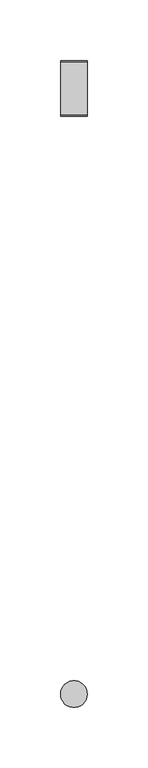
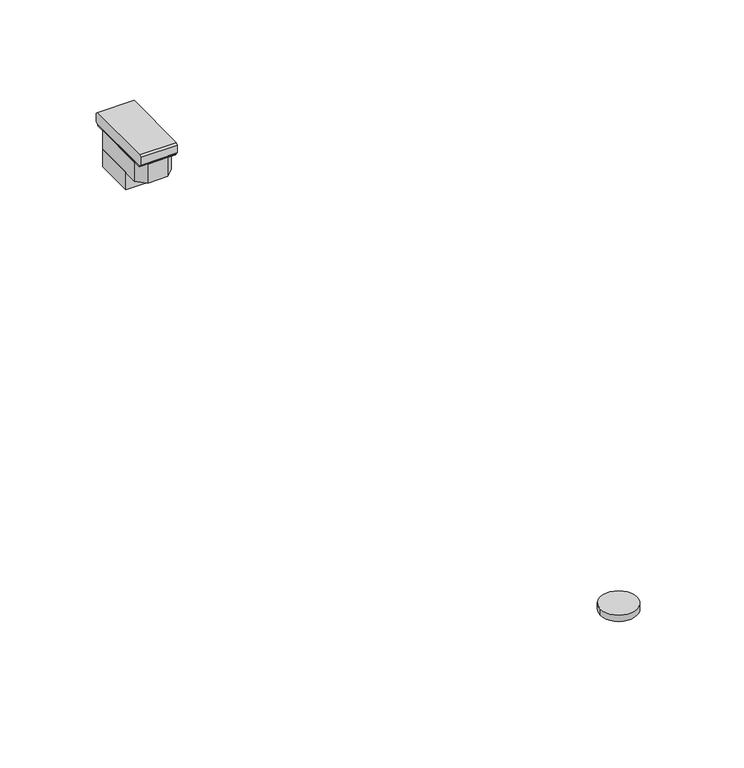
"""IFC4 building model written with IfcOpenShell, lengths in millimetres: proxy geometry, L4033 LI Pulsante NO 1P 10A a tirante : L4033 LI Pulsante NO 1P 10A a tirante."""

from ifc_helpers import new_model, si_unit, point, frame, frame_2d, origin, origin_with_axes, place, context, project, spatial, polyline, circle_curve, trimmed, segment, composite_curve, outline, extrude, source, transform, mapped, element, save


def electrical_fixtures_4c2bc1d1(model_context):
    return source(origin(), model_context, "Body", "SweptSolid", [
        extrude(outline(polyline([(-22.0, 1.0), (-22.9899495, 1.9899495), (-22.9899495, 6.9899495), (-22.0, 7.979899), (22.0, 7.979899), (22.9899495, 6.9899495), (22.9899495, 1.9899495), (22.0, 1.0), (-22.0, 1.0)])), frame((-11.0, 0.0, 0.0), z_axis=(1.0, 0.0, 0.0), x_axis=(0.0, 1.0, 0.0)), (0.0, 0.0, 1.0), 22.0),
        extrude(outline(polyline([(-11.0, -7.5), (-11.0, 16.5), (-9.0, 18.5), (9.0, 18.5), (11.0, 16.5), (11.0, -7.5), (-11.0, -7.5)])), frame((0.0, 0.0, -23.0), z_axis=(0.0, 0.0, 1.0), x_axis=(1.0, 0.0, 0.0)), (0.0, 0.0, 1.0), 11.0),
        extrude(outline(polyline([(11.0, -16.5), (6.0, -21.5), (-6.0, -21.5), (-11.0, -16.5), (-11.0, 16.5), (-6.0, 21.5), (6.0, 21.5), (11.0, 16.5), (11.0, -16.5)])), frame((0.0, 0.0, -12.0), z_axis=(0.0, 0.0, 1.0), x_axis=(1.0, 0.0, 0.0)), (0.0, 0.0, 1.0), 12.0),
        extrude(outline(polyline([(11.0, -21.5), (-11.0, -21.5), (-11.0, 21.5), (11.0, 21.5), (11.0, -21.5)])), origin_with_axes(), (0.0, 0.0, 1.0), 1.0),
        extrude(outline(composite_curve([segment(trimmed(circle_curve(frame_2d((0.0, -500.0)), 11.0), [point((-11.0, -500.0))], [point((11.0, -500.0))], False, "CARTESIAN"), True, "CONTINUOUS"), segment(trimmed(circle_curve(frame_2d((0.0, -500.0)), 11.0), [point((11.0, -500.0))], [point((-11.0, -500.0))], False, "CARTESIAN"), True, "CONTINUOUS")], self_intersect=False)), frame((0.0, 0.0, 5.979899), z_axis=(0.0, 0.0, 1.0), x_axis=(1.0, 0.0, 0.0)), (0.0, 0.0, 1.0), 4.0),
    ])


if __name__ == "__main__":
    model = new_model("IFC4")
    model_context = context("Model", 3, world=origin())
    ifc_project = project(units=[si_unit("LENGTHUNIT", "METRE", prefix="MILLI")], contexts=[model_context])
    site = spatial("IfcSite", under=ifc_project)
    building = spatial("IfcBuilding", under=site)
    placement = place(None, origin())
    electrical_fixtures_shape = electrical_fixtures_4c2bc1d1(model_context)
    element("IfcBuildingElementProxy", 1, Name="L4033 LI Pulsante NO 1P 10A a tirante : L4033 LI Pulsante NO 1P 10A a tirante", ObjectType="L4033 LI Pulsante NO 1P 10A a tirante : L4033 LI Pulsante NO 1P 10A a tirante", at=placement, inside=building, context=model_context, shape_type="MappedRepresentation", body=[
        mapped(electrical_fixtures_shape, transform((0.0, 0.0, 0.0), x_axis=(1.0, 0.0, 0.0), y_axis=(0.0, 1.0, 0.0), z_axis=(0.0, 0.0, 1.0))),
    ])
    save(model, "model.ifc")
